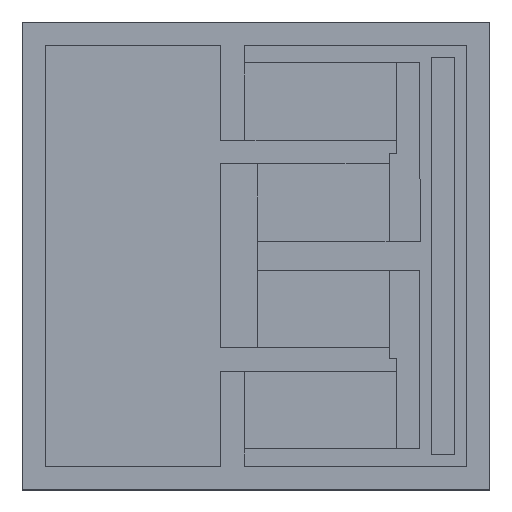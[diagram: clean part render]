
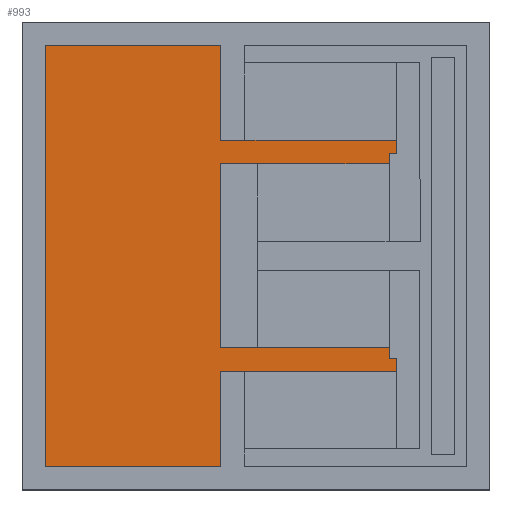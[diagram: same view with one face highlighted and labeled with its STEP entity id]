
A CAD part, top view. The second image highlights one B-rep face of the part: STEP entity #993.
In plain terms, the highlighted planar face has unit normal (0, 0, 1).
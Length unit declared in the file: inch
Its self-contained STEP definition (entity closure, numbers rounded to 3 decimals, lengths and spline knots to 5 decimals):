
#58=FACE_OUTER_BOUND('',#108,.T.);
#108=EDGE_LOOP('',(#824,#825,#826,#827,#828,#829,#830,#831,#832,#833,#834,
#835,#836,#837,#838,#839));
#149=LINE('',#1376,#281);
#159=LINE('',#1396,#291);
#214=LINE('',#1503,#346);
#216=LINE('',#1507,#348);
#218=LINE('',#1510,#350);
#220=LINE('',#1515,#352);
#223=LINE('',#1521,#355);
#226=LINE('',#1526,#358);
#228=LINE('',#1530,#360);
#230=LINE('',#1533,#362);
#231=LINE('',#1536,#363);
#233=LINE('',#1540,#365);
#235=LINE('',#1544,#367);
#237=LINE('',#1548,#369);
#239=LINE('',#1552,#371);
#241=LINE('',#1555,#373);
#281=VECTOR('',#1126,0.3937);
#291=VECTOR('',#1140,0.3937);
#346=VECTOR('',#1227,0.3937);
#348=VECTOR('',#1231,0.3937);
#350=VECTOR('',#1235,0.3937);
#352=VECTOR('',#1239,0.3937);
#355=VECTOR('',#1244,0.3937);
#358=VECTOR('',#1249,0.3937);
#360=VECTOR('',#1253,0.3937);
#362=VECTOR('',#1257,0.3937);
#363=VECTOR('',#1260,0.3937);
#365=VECTOR('',#1264,0.3937);
#367=VECTOR('',#1268,0.3937);
#369=VECTOR('',#1272,0.3937);
#371=VECTOR('',#1276,0.3937);
#373=VECTOR('',#1280,0.3937);
#408=VERTEX_POINT('',#1373);
#409=VERTEX_POINT('',#1375);
#416=VERTEX_POINT('',#1393);
#417=VERTEX_POINT('',#1395);
#452=VERTEX_POINT('',#1500);
#453=VERTEX_POINT('',#1502);
#454=VERTEX_POINT('',#1506);
#456=VERTEX_POINT('',#1514);
#458=VERTEX_POINT('',#1520);
#459=VERTEX_POINT('',#1525);
#460=VERTEX_POINT('',#1529);
#461=VERTEX_POINT('',#1535);
#462=VERTEX_POINT('',#1539);
#463=VERTEX_POINT('',#1543);
#464=VERTEX_POINT('',#1547);
#465=VERTEX_POINT('',#1551);
#501=EDGE_CURVE('',#409,#408,#149,.T.);
#511=EDGE_CURVE('',#417,#416,#159,.T.);
#566=EDGE_CURVE('',#453,#452,#214,.T.);
#568=EDGE_CURVE('',#454,#453,#216,.T.);
#570=EDGE_CURVE('',#408,#454,#218,.T.);
#572=EDGE_CURVE('',#456,#409,#220,.T.);
#575=EDGE_CURVE('',#458,#456,#223,.T.);
#578=EDGE_CURVE('',#459,#458,#226,.T.);
#580=EDGE_CURVE('',#460,#459,#228,.T.);
#582=EDGE_CURVE('',#416,#460,#230,.T.);
#583=EDGE_CURVE('',#461,#417,#231,.T.);
#585=EDGE_CURVE('',#462,#461,#233,.T.);
#587=EDGE_CURVE('',#463,#462,#235,.T.);
#589=EDGE_CURVE('',#464,#463,#237,.T.);
#591=EDGE_CURVE('',#465,#464,#239,.T.);
#593=EDGE_CURVE('',#452,#465,#241,.T.);
#824=ORIENTED_EDGE('',*,*,#593,.T.);
#825=ORIENTED_EDGE('',*,*,#591,.T.);
#826=ORIENTED_EDGE('',*,*,#589,.T.);
#827=ORIENTED_EDGE('',*,*,#587,.T.);
#828=ORIENTED_EDGE('',*,*,#585,.T.);
#829=ORIENTED_EDGE('',*,*,#583,.T.);
#830=ORIENTED_EDGE('',*,*,#511,.T.);
#831=ORIENTED_EDGE('',*,*,#582,.T.);
#832=ORIENTED_EDGE('',*,*,#580,.T.);
#833=ORIENTED_EDGE('',*,*,#578,.T.);
#834=ORIENTED_EDGE('',*,*,#575,.T.);
#835=ORIENTED_EDGE('',*,*,#572,.T.);
#836=ORIENTED_EDGE('',*,*,#501,.T.);
#837=ORIENTED_EDGE('',*,*,#570,.T.);
#838=ORIENTED_EDGE('',*,*,#568,.T.);
#839=ORIENTED_EDGE('',*,*,#566,.T.);
#904=PLANE('',#1061);
#993=ADVANCED_FACE('',(#58),#904,.T.);
#1061=AXIS2_PLACEMENT_3D('',#1556,#1281,#1282);
#1126=DIRECTION('',(-1.,0.,0.));
#1140=DIRECTION('',(-1.,0.,0.));
#1227=DIRECTION('',(0.,-1.,0.));
#1231=DIRECTION('',(-1.,0.,0.));
#1235=DIRECTION('',(0.,1.,0.));
#1239=DIRECTION('',(0.,1.,0.));
#1244=DIRECTION('',(1.,0.,0.));
#1249=DIRECTION('',(0.,1.,0.));
#1253=DIRECTION('',(1.,0.,0.));
#1257=DIRECTION('',(0.,1.,0.));
#1260=DIRECTION('',(0.,1.,0.));
#1264=DIRECTION('',(-1.,0.,0.));
#1268=DIRECTION('',(0.,1.,0.));
#1272=DIRECTION('',(1.,0.,0.));
#1276=DIRECTION('',(0.,1.,0.));
#1280=DIRECTION('',(1.,0.,0.));
#1281=DIRECTION('center_axis',(0.,0.,1.));
#1282=DIRECTION('ref_axis',(1.,0.,0.));
#1373=CARTESIAN_POINT('',(0.017,0.02988,0.0002));
#1375=CARTESIAN_POINT('',(0.032,0.02988,0.0002));
#1376=CARTESIAN_POINT('',(0.032,0.02988,0.0002));
#1393=CARTESIAN_POINT('',(0.017,0.01213,0.0002));
#1395=CARTESIAN_POINT('',(0.03137,0.01213,0.0002));
#1396=CARTESIAN_POINT('',(0.03137,0.01213,0.0002));
#1500=CARTESIAN_POINT('',(0.002,0.002,0.0002));
#1502=CARTESIAN_POINT('',(0.002,0.038,0.0002));
#1503=CARTESIAN_POINT('',(0.002,0.038,0.0002));
#1506=CARTESIAN_POINT('',(0.017,0.038,0.0002));
#1507=CARTESIAN_POINT('',(0.017,0.038,0.0002));
#1510=CARTESIAN_POINT('',(0.017,0.02988,0.0002));
#1514=CARTESIAN_POINT('',(0.032,0.02875,0.0002));
#1515=CARTESIAN_POINT('',(0.032,0.02875,0.0002));
#1520=CARTESIAN_POINT('',(0.03137,0.02875,0.0002));
#1521=CARTESIAN_POINT('',(0.03137,0.02875,0.0002));
#1525=CARTESIAN_POINT('',(0.03137,0.02788,0.0002));
#1526=CARTESIAN_POINT('',(0.03137,0.02788,0.0002));
#1529=CARTESIAN_POINT('',(0.017,0.02788,0.0002));
#1530=CARTESIAN_POINT('',(0.017,0.02788,0.0002));
#1533=CARTESIAN_POINT('',(0.017,0.01213,0.0002));
#1535=CARTESIAN_POINT('',(0.03137,0.01125,0.0002));
#1536=CARTESIAN_POINT('',(0.03137,0.01125,0.0002));
#1539=CARTESIAN_POINT('',(0.032,0.01125,0.0002));
#1540=CARTESIAN_POINT('',(0.032,0.01125,0.0002));
#1543=CARTESIAN_POINT('',(0.032,0.01013,0.0002));
#1544=CARTESIAN_POINT('',(0.032,0.01013,0.0002));
#1547=CARTESIAN_POINT('',(0.017,0.01013,0.0002));
#1548=CARTESIAN_POINT('',(0.017,0.01013,0.0002));
#1551=CARTESIAN_POINT('',(0.017,0.002,0.0002));
#1552=CARTESIAN_POINT('',(0.017,0.002,0.0002));
#1555=CARTESIAN_POINT('',(0.002,0.002,0.0002));
#1556=CARTESIAN_POINT('Origin',(0.01542,0.02,0.0002));
